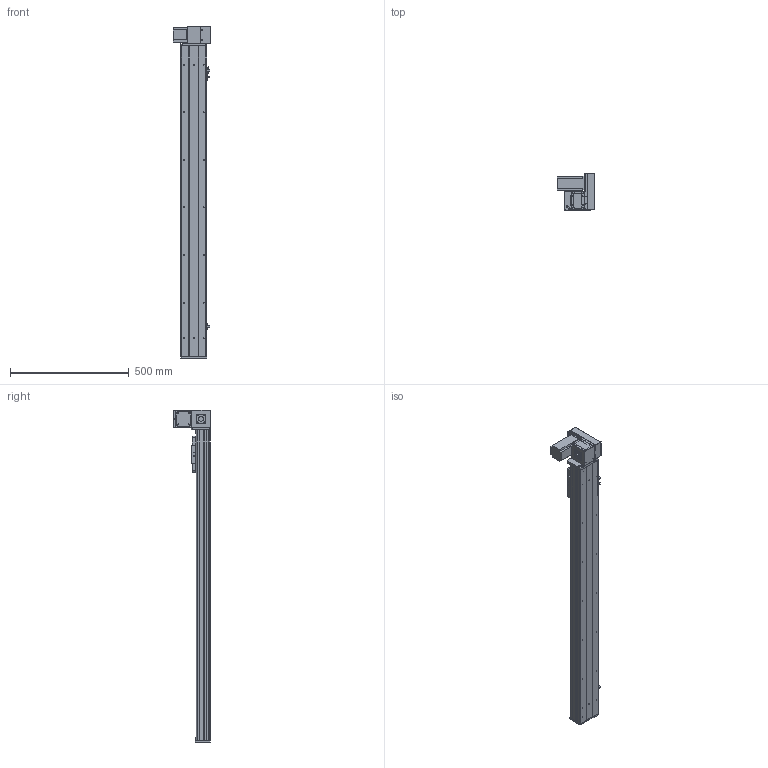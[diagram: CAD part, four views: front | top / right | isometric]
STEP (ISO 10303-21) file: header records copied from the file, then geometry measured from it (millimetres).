
FILE_DESCRIPTION (( 'STEP AP203' ), '1' );
FILE_NAME ('Y10CB-D90-S1050-UR-P400W.STEP', '2020-02-16T03:32:14', ( '微软用户' ), ( '微软中国' ), 'SwSTEP 2.0', 'SolidWorks 2017', '' );
FILE_SCHEMA (( 'CONFIG_CONTROL_DESIGN' ));
Length unit declared in the file: millimetre
Products named in the file (18): 0Cb-俋欶---; 10CB-耜裔; Y10B-々湍喘謫眊楊擘啣--; Y135C-陔俋离換覜結え-; san松下电机400不带刹车----; 0B-萇儂楊擘啣; Y100-135俋离換覜ん--; 0B-源倛裔啣; Y10B--々湍喘謫眊--666; 0B-埴倛裔啣; Y10B-耜蚾蟀諉啣----; 10CB-詩湍-; 00B-俋欶BM--; Y10CB- 掛极耜裔啣-毀---; Y10CB-D90-S1050-UR-P400W; Y10C---詩湍揤啣; 0CB-雄赽釱---; 10CB9-掛极
Assembly tree (21 placements, depth 2):
  Y10CB-D90-S1050-UR-P400W
    0CB-雄赽釱---
    0Cb-俋欶---
    Y10B-々湍喘謫眊楊擘啣--
    0B-萇儂楊擘啣
    san松下电机400不带刹车----
    0B-源倛裔啣
    0B-埴倛裔啣
    10CB-詩湍-
    Y10CB- 掛极耜裔啣-毀---  x2
    Y10C---詩湍揤啣  x2
    10CB9-掛极
    10CB-耜裔
    Y135C-陔俋离換覜結え-
    Y100-135俋离換覜ん--  x3
    Y10B--々湍喘謫眊--666
    Y10B-耜蚾蟀諉啣----
    00B-俋欶BM--
Bounding box: 157 x 155.5 x 1396 mm (x, y, z)
Volume: 3223217.9 mm3; surface area: 1455525.9 mm2
Topology: 21 solids, 21 shells, 990 faces, 2643 edges, 1730 vertices
Faces by surface type: cylinder 489, plane 477, cone 24
Entity records: 30912 total; most frequent: CARTESIAN_POINT 5469, DIRECTION 4998, ORIENTED_EDGE 4756, EDGE_CURVE 2378, AXIS2_PLACEMENT_3D 1789, VERTEX_POINT 1556, LINE 1420, VECTOR 1420
